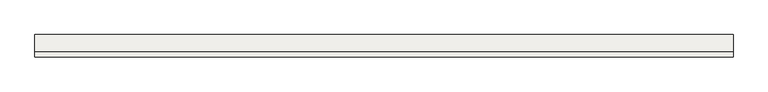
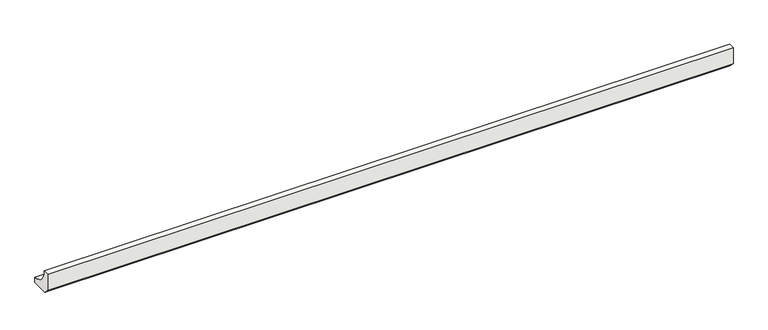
"""IFC4 building model written with IfcOpenShell, lengths in millimetres: slab geometry, ROSA GRES_188 : Pieza 188_Serena_Ocra_Anti-Slip."""

from ifc_helpers import new_model, si_unit, point, frame, frame_2d, origin, place, context, project, spatial, polyline, circle_curve, trimmed, segment, composite_curve, outline, extrude, source, transform, mapped, element, save


def slab_ba15e0cd(model_context):
    return source(origin(), model_context, "Body", "SweptSolid", [
        extrude(outline(composite_curve([segment(polyline([(0.0, 8.7114978), (0.0, 40.0), (9.9734114, 40.0)]), True, "CONTINUOUS"), segment(trimmed(circle_curve(frame_2d((39.9955547, 39.9955547)), 30.0221435), [point((9.9734114, 40.0))], [point((40.0, 9.9734114))], True, "CARTESIAN"), True, "CONTINUOUS"), segment(polyline([(40.0, 9.9734114), (40.0, 0.0), (8.7114978, 0.0), (0.0, 8.7114978)]), True, "CONTINUOUS")], self_intersect=False)), frame((0.0, 0.0, 0.0), z_axis=(1.0, 0.0, 0.0), x_axis=(0.0, 1.0, 0.0)), (0.0, 0.0, 1.0), 1248.8831601),
    ])


if __name__ == "__main__":
    model = new_model("IFC4")
    model_context = context("Model", 3, world=origin())
    ifc_project = project(units=[si_unit("LENGTHUNIT", "METRE", prefix="MILLI")], contexts=[model_context])
    site = spatial("IfcSite", under=ifc_project)
    building = spatial("IfcBuilding", under=site)
    placement = place(None, origin())
    slab_shape = slab_ba15e0cd(model_context)
    element("IfcSlab", 1, ObjectType="ROSA GRES_188 : Pieza 188_Serena_Ocra_Anti-Slip", at=placement, inside=building, context=model_context, shape_type="MappedRepresentation", body=[
        mapped(slab_shape, transform((0.0, 0.0, 0.0), x_axis=(1.0, 0.0, 0.0), y_axis=(0.0, 1.0, 0.0), z_axis=(0.0, 0.0, 1.0))),
    ])
    save(model, "model.ifc")
